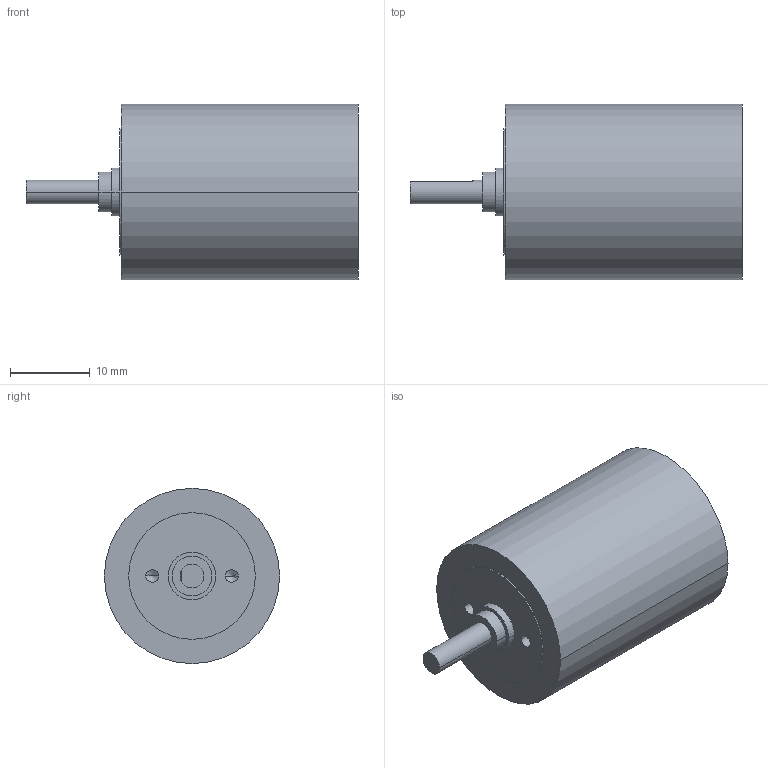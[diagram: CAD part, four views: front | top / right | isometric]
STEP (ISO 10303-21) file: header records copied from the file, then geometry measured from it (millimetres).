
FILE_DESCRIPTION((''),'2;1');
FILE_NAME('1118171','2010-02-04T',('MMAGMIBU'),(''),'PRO/ENGINEER BY PARAMETRIC TECHNOLOGY CORPORATION, 2009230','PRO/ENGINEER BY PARAMETRIC TECHNOLOGY CORPORATION, 2009230','');
FILE_SCHEMA(('CONFIG_CONTROL_DESIGN'));
Length unit declared in the file: millimetre
Products named in the file (1): 1118171
Bounding box: 41.7 x 22 x 22 mm (x, y, z)
Volume: 10697.2 mm3; surface area: 3143 mm2
Topology: 1 solids, 1 shells, 29 faces, 62 edges, 38 vertices
Faces by surface type: cylinder 16, plane 9, cone 4
Entity records: 807 total; most frequent: DIRECTION 146, CARTESIAN_POINT 130, ORIENTED_EDGE 116, AXIS2_PLACEMENT_3D 61, EDGE_CURVE 58, VERTEX_POINT 38, EDGE_LOOP 36, CIRCLE 32
